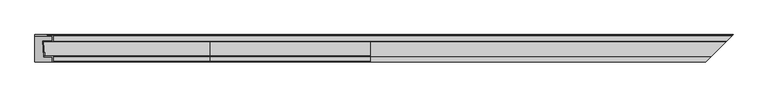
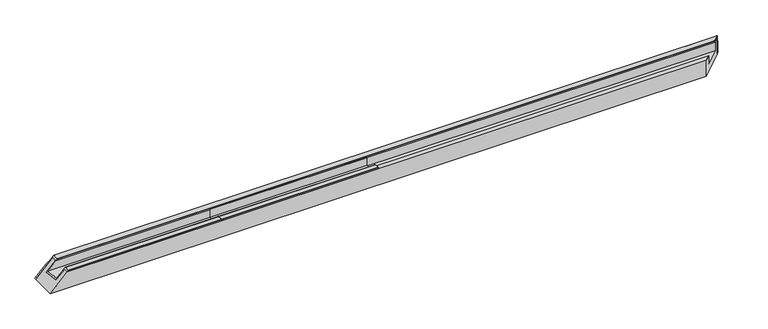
"""IFC4 building model written with IfcOpenShell, lengths in millimetres: proxy geometry, Weiku - Montante - Caixilho duplo 02.2.01.002 de canto : Weiku - Montante - Caixilho duplo 02.2.01.002 de canto."""

from ifc_helpers import new_model, si_unit, point, frame, frame_2d, origin, place, context, project, spatial, polyline, circle_curve, ellipse_curve, trimmed, segment, composite_curve, outline, extrude, faceted_brep, source, transform, mapped, element, save
from ifc_brep_helpers import plane_surface, cylinder_surface, revolved_surface, advanced_brep


def generic_models_a2fa1a58(model_context):
    return source(origin(), model_context, "Body", "SolidModel", [
        extrude(outline(composite_curve([segment(polyline([(15.0, 52.0), (0.0, 52.0), (0.0, 55.0)]), True, "CONTINUOUS"), segment(trimmed(circle_curve(frame_2d((1.0, 55.0)), 1.0), [point((0.0, 55.0))], [point((1.0, 56.0))], False, "CARTESIAN"), True, "CONTINUOUS"), segment(polyline([(1.0, 56.0), (16.0, 56.0)]), True, "CONTINUOUS"), segment(trimmed(circle_curve(frame_2d((16.0, 55.0)), 1.0), [point((16.0, 56.0))], [point((17.0, 55.0))], False, "CARTESIAN"), True, "CONTINUOUS"), segment(polyline([(17.0, 55.0), (17.0, 28.908759), (60.0, 26.8749739), (60.0, 52.0), (62.0, 52.0), (62.0, 23.7770256), (15.0, 26.0), (15.0, 52.0)]), True, "CONTINUOUS")], self_intersect=False)), frame((-476.75, 0.0, 0.0), z_axis=(1.0, 0.0, 0.0), x_axis=(0.0, 1.0, 0.0)), (0.0, 0.0, 1.0), 476.75),
        advanced_brep(
        [(-943.5, 60.0, 55.0), (-946.5, 60.0, 52.0), (1058.5, 60.0, 52.0), (1058.5, 60.0, 55.0), (-942.5, 61.0, 56.0), (1059.5, 61.0, 56.0), (-942.5, 78.0, 56.0), (1076.5, 78.0, 56.0), (-943.5, 79.0, 55.0), (1077.5, 79.0, 55.0), (-957.5, 79.0, 41.0), (1077.5, 79.0, 41.0), (-960.5, 80.0, 38.0), (1078.5, 80.0, 38.0), (-963.5, 81.0, 35.0), (1079.5, 81.0, 35.0), (-998.5, 81.0, 0.0), (1079.5, 81.0, 0.0), (-998.5, 77.0, 0.0), (1075.5, 77.0, 0.0), (-946.5, 77.0, 52.0), (1075.5, 77.0, 52.0)],
        [
            (0, 1),
            (1, 2),
            (2, 3),
            (3, 0),
            (4, 0, ellipse_curve(frame((-943.5, 61.0, 55.0), z_axis=(0.7071067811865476, 0.0, -0.7071067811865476), x_axis=(-0.7071067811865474, 0.0, -0.7071067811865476)), 1.4142136, 1.0)),
            (3, 5, ellipse_curve(frame((1059.5, 61.0, 55.0), z_axis=(-0.7071067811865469, 0.7071067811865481, 0.0), x_axis=(-0.7071067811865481, -0.7071067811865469, 0.0)), 1.4142136, 1.0)),
            (5, 4),
            (6, 4),
            (5, 7),
            (7, 6),
            (8, 6, ellipse_curve(frame((-943.5, 78.0, 55.0), z_axis=(0.7071067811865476, 0.0, -0.7071067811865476), x_axis=(-0.7071067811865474, 0.0, -0.7071067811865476)), 1.4142136, 1.0)),
            (7, 9, ellipse_curve(frame((1076.5, 78.0, 55.0), z_axis=(-0.7071067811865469, 0.7071067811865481, 0.0), x_axis=(-0.7071067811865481, -0.7071067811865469, 0.0)), 1.4142136, 1.0)),
            (9, 8),
            (10, 8),
            (9, 11),
            (11, 10),
            (12, 10, ellipse_curve(frame((-957.5, 84.0, 41.0), z_axis=(-0.7071067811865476, 0.0, 0.7071067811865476), x_axis=(0.7071067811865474, 0.0, 0.7071067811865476)), 7.0710678, 5.0)),
            (11, 13, ellipse_curve(frame((1082.5, 84.0, 41.0), z_axis=(0.7071067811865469, -0.7071067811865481, 0.0), x_axis=(0.7071067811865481, 0.7071067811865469, 0.0)), 7.0710678, 5.0)),
            (13, 12),
            (14, 12, ellipse_curve(frame((-963.5, 76.0, 35.0), z_axis=(0.7071067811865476, 0.0, -0.7071067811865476), x_axis=(-0.7071067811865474, 0.0, -0.7071067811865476)), 7.0710678, 5.0)),
            (13, 15, ellipse_curve(frame((1074.5, 76.0, 35.0), z_axis=(-0.7071067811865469, 0.7071067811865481, 0.0), x_axis=(-0.7071067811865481, -0.7071067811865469, 0.0)), 7.0710678, 5.0)),
            (15, 14),
            (16, 14),
            (15, 17),
            (17, 16),
            (18, 16),
            (17, 19),
            (19, 18),
            (20, 18),
            (19, 21),
            (21, 20),
            (1, 20),
            (21, 2),
        ],
        [
            plane_surface(frame((-998.5, 60.0, 52.0), z_axis=(0.0, -1.0, 0.0), x_axis=(1.0, 0.0, 0.0))),
            cylinder_surface(frame((-998.5, 61.0, 55.0), z_axis=(-1.0, 0.0, 0.0), x_axis=(0.0, 1.0, 0.0)), 1.0),
            plane_surface(frame((-998.5, 61.0, 56.0), z_axis=(0.0, 0.0, 1.0), x_axis=(1.0, 0.0, 0.0))),
            cylinder_surface(frame((-998.5, 78.0, 55.0), z_axis=(-1.0, 0.0, 0.0), x_axis=(0.0, 1.0, 0.0)), 1.0),
            plane_surface(frame((-998.5, 79.0, 55.0), z_axis=(0.0, 1.0, 0.0), x_axis=(1.0, 0.0, 0.0))),
            revolved_surface(polyline([(1087.49999999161, 89.0, 41.0), (-962.4999999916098, 89.0, 41.0)]), (-998.5, 84.0, 41.0), (1.0, 0.0, 0.0)),
            cylinder_surface(frame((-998.5, 76.0, 35.0), z_axis=(-1.0, 0.0, 0.0), x_axis=(0.0, 1.0, 0.0)), 5.0),
            plane_surface(frame((-998.5, 81.0, 35.0), z_axis=(0.0, 1.0, 0.0), x_axis=(1.0, 0.0, 0.0))),
            plane_surface(frame((-998.5, 81.0, 0.0), z_axis=(0.0, 0.0, -1.0), x_axis=(1.0, 0.0, 0.0))),
            plane_surface(frame((-998.5, 77.0, 0.0), z_axis=(0.0, -1.0, 0.0), x_axis=(1.0, 0.0, 0.0))),
            plane_surface(frame((-998.5, 77.0, 52.0), z_axis=(0.0, 0.0, -1.0), x_axis=(1.0, 0.0, 0.0))),
            plane_surface(frame((1088.5, 90.0, 70.0), z_axis=(0.7071067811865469, -0.7071067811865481, 0.0), x_axis=(0.0, 0.0, -1.0))),
            plane_surface(frame((-998.5, 0.0, 0.0), z_axis=(-0.7071067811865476, 0.0, 0.7071067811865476), x_axis=(0.0, 1.0, 0.0))),
        ],
        [
            (0, [[1, 2, 3, 4]]),
            (1, [[5, -4, 6, 7]]),
            (2, [[8, -7, 9, 10]]),
            (3, [[11, -10, 12, 13]]),
            (4, [[14, -13, 15, 16]]),
            (5, [[17, -16, 18, 19]]),
            (6, [[20, -19, 21, 22]]),
            (7, [[23, -22, 24, 25]]),
            (8, [[26, -25, 27, 28]]),
            (9, [[29, -28, 30, 31]]),
            (10, [[32, -31, 33, -2]]),
            (11, [[-3, -33, -30, -27, -24, -21, -18, -15, -12, -9, -6]]),
            (12, [[-1, -5, -8, -11, -14, -17, -20, -23, -26, -29, -32]]),
        ],
    ),
        advanced_brep(
        [(-476.75, 15.0, 52.0), (-476.75, 15.0, 26.0), (-476.75, 62.0, 23.7770256), (-476.75, 62.0, 52.0), (-476.75, 60.0, 52.0), (-476.75, 60.0, 26.8749739), (-476.75, 17.0, 28.908759), (-476.75, 17.0, 55.0), (-476.75, 16.0, 56.0), (-476.75, 1.0, 56.0), (-476.75, 0.0, 55.0), (-476.75, 0.0, 52.0), (-946.5, 62.0, 52.0), (-946.5, 60.0, 52.0), (-974.7229744, 62.0, 23.7770256), (-946.5, 0.0, 52.0), (-946.5, 15.0, 52.0), (-943.5, 0.0, 55.0), (-942.5, 1.0, 56.0), (-942.5, 16.0, 56.0), (-943.5, 17.0, 55.0), (-969.591241, 17.0, 28.908759), (-971.6250261, 60.0, 26.8749739), (-972.5, 15.0, 26.0)],
        [
            (0, 1),
            (1, 2),
            (2, 3),
            (3, 4),
            (4, 5),
            (5, 6),
            (6, 7),
            (7, 8, circle_curve(frame((-476.75, 16.0, 55.0), z_axis=(1.0, 0.0, 0.0), x_axis=(0.0, 1.0, 0.0)), 1.0)),
            (8, 9),
            (9, 10, circle_curve(frame((-476.75, 1.0, 55.0), z_axis=(1.0, 0.0, 0.0), x_axis=(0.0, 1.0, 0.0)), 1.0)),
            (10, 11),
            (11, 0),
            (3, 12),
            (12, 13),
            (13, 4),
            (2, 14),
            (14, 12),
            (11, 15),
            (15, 16),
            (16, 0),
            (10, 17),
            (17, 15),
            (9, 18),
            (18, 17, ellipse_curve(frame((-943.5, 1.0, 55.0), z_axis=(0.7071067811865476, 0.0, -0.7071067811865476), x_axis=(-0.7071067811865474, 0.0, -0.7071067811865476)), 1.4142136, 1.0)),
            (8, 19),
            (19, 18),
            (7, 20),
            (20, 19, ellipse_curve(frame((-943.5, 16.0, 55.0), z_axis=(0.7071067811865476, 0.0, -0.7071067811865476), x_axis=(-0.7071067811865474, 0.0, -0.7071067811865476)), 1.4142136, 1.0)),
            (6, 21),
            (21, 20),
            (5, 22),
            (22, 21),
            (13, 22),
            (1, 23),
            (23, 14),
            (16, 23),
        ],
        [
            plane_surface(frame((-476.75, 0.0, 0.0), z_axis=(1.0, 0.0, 0.0), x_axis=(0.0, 0.0, 1.0))),
            plane_surface(frame((-998.5, 60.0, 52.0), z_axis=(0.0, 0.0, 1.0), x_axis=(1.0, 0.0, 0.0))),
            plane_surface(frame((-998.5, 62.0, 52.0), z_axis=(0.0, 1.0, 0.0), x_axis=(1.0, 0.0, 0.0))),
            plane_surface(frame((-998.5, 15.0, 52.0), z_axis=(0.0, 0.0, -1.0), x_axis=(1.0, 0.0, 0.0))),
            plane_surface(frame((-998.5, 0.0, 52.0), z_axis=(0.0, -1.0, 0.0), x_axis=(1.0, 0.0, 0.0))),
            cylinder_surface(frame((-998.5, 1.0, 55.0), z_axis=(-1.0, 0.0, 0.0), x_axis=(0.0, 1.0, 0.0)), 1.0),
            plane_surface(frame((-998.5, 1.0, 56.0), z_axis=(0.0, 0.0, 1.0), x_axis=(1.0, 0.0, 0.0))),
            cylinder_surface(frame((-998.5, 16.0, 55.0), z_axis=(-1.0, 0.0, 0.0), x_axis=(0.0, 1.0, 0.0)), 1.0),
            plane_surface(frame((-998.5, 17.0, 55.0), z_axis=(0.0, 1.0, 0.0), x_axis=(1.0, 0.0, 0.0))),
            plane_surface(frame((-998.5, 17.0, 28.908759), z_axis=(0.0, 0.0472445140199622, 0.9988833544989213), x_axis=(1.0, 0.0, 0.0))),
            plane_surface(frame((-998.5, 60.0, 26.8749739), z_axis=(0.0, -1.0, 0.0), x_axis=(1.0, 0.0, 0.0))),
            plane_surface(frame((-998.5, 62.0, 23.7770256), z_axis=(0.0, -0.047244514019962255, -0.9988833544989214), x_axis=(1.0, 0.0, 0.0))),
            plane_surface(frame((-998.5, 15.0, 26.0), z_axis=(0.0, -1.0, 0.0), x_axis=(1.0, 0.0, 0.0))),
            plane_surface(frame((-998.5, 0.0, 0.0), z_axis=(-0.7071067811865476, 0.0, 0.7071067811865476), x_axis=(0.0, 1.0, 0.0))),
        ],
        [
            (0, [[1, 2, 3, 4, 5, 6, 7, 8, 9, 10, 11, 12]]),
            (1, [[-4, 13, 14, 15]]),
            (2, [[-3, 16, 17, -13]]),
            (3, [[-12, 18, 19, 20]]),
            (4, [[-11, 21, 22, -18]]),
            (5, [[-10, 23, 24, -21]]),
            (6, [[-9, 25, 26, -23]]),
            (7, [[-8, 27, 28, -25]]),
            (8, [[-7, 29, 30, -27]]),
            (9, [[-6, 31, 32, -29]]),
            (10, [[-5, -15, 33, -31]]),
            (11, [[-2, 34, 35, -16]]),
            (12, [[-1, -20, 36, -34]]),
            (13, [[-14, -17, -35, -36, -19, -22, -24, -26, -28, -30, -32, -33]]),
        ],
    ),
        faceted_brep([(-972.5, 15.0, 26.0), (-946.5, 15.0, 52.0), (1013.5, 15.0, 52.0), (1013.5, 15.0, 26.0), (-974.7229744, 62.0, 23.7770256), (1060.5, 62.0, 23.7770256), (-946.5, 62.0, 52.0), (1060.5, 62.0, 52.0), (-946.5, 77.0, 52.0), (1075.5, 77.0, 52.0), (-998.5, 77.0, 0.0), (1075.5, 77.0, 0.0), (-998.5, 0.0, 0.0), (998.5, 0.0, 0.0), (-946.5, 0.0, 52.0), (998.5, 0.0, 52.0)], [[[0, 1, 2, 3]], [[4, 0, 3, 5]], [[6, 4, 5, 7]], [[8, 6, 7, 9]], [[10, 8, 9, 11]], [[12, 10, 11, 13]], [[14, 12, 13, 15]], [[1, 14, 15, 2]], [[3, 2, 15, 13, 11, 9, 7, 5]], [[1, 0, 4, 6, 8, 10, 12, 14]]]),
    ])


if __name__ == "__main__":
    model = new_model("IFC4")
    model_context = context("Model", 3, world=origin())
    ifc_project = project(units=[si_unit("LENGTHUNIT", "METRE", prefix="MILLI")], contexts=[model_context])
    site = spatial("IfcSite", under=ifc_project)
    building = spatial("IfcBuilding", under=site)
    placement = place(None, origin())
    generic_models_shape = generic_models_a2fa1a58(model_context)
    element("IfcBuildingElementProxy", 1, Name="Weiku - Montante - Caixilho duplo 02.2.01.002 de canto : Weiku - Montante - Caixilho duplo 02.2.01.002 de canto", ObjectType="Weiku - Montante - Caixilho duplo 02.2.01.002 de canto : Weiku - Montante - Caixilho duplo 02.2.01.002 de canto", at=placement, inside=building, context=model_context, shape_type="MappedRepresentation", body=[
        mapped(generic_models_shape, transform((0.0, 0.0, 0.0), x_axis=(1.0, 0.0, 0.0), y_axis=(0.0, 1.0, 0.0), z_axis=(0.0, 0.0, 1.0))),
    ])
    save(model, "model.ifc")
